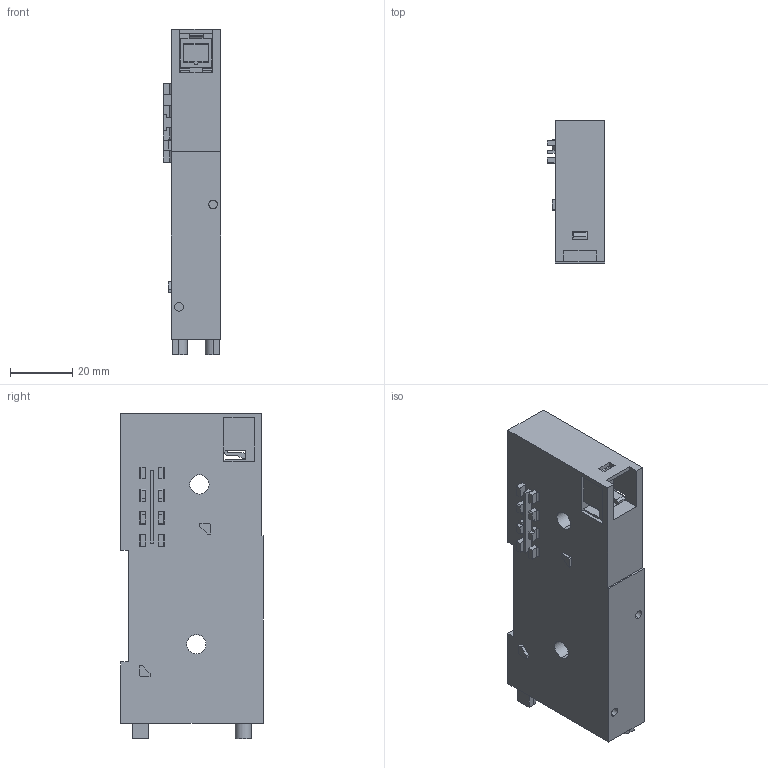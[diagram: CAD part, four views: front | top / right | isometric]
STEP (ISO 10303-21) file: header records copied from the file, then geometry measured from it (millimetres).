
FILE_DESCRIPTION( (''), '2;1');
FILE_NAME ('CVICAD02.6312.F15ZX_ValveBaseAssy_21259.stp','2021-07-12T19:11:36',(''),(''),'spGate 12.6.6','','');
FILE_SCHEMA (('AUTOMOTIVE_DESIGN'));
Length unit declared in the file: millimetre
Bounding box: 18.6 x 46 x 105 mm (x, y, z)
Volume: 68672.2 mm3; surface area: 16210.1 mm2
Topology: 1 solids, 1 shells, 261 faces, 703 edges, 464 vertices
Faces by surface type: plane 222, cylinder 39
Entity records: 13699 total; most frequent: CARTESIAN_POINT 1436, ORIENTED_EDGE 1406, DIRECTION 1295, COLOUR_RGB 965, PRESENTATION_STYLE_ASSIGNMENT 965, STYLED_ITEM 965, EDGE_CURVE 703, DRAUGHTING_PRE_DEFINED_CURVE_FONT 703
